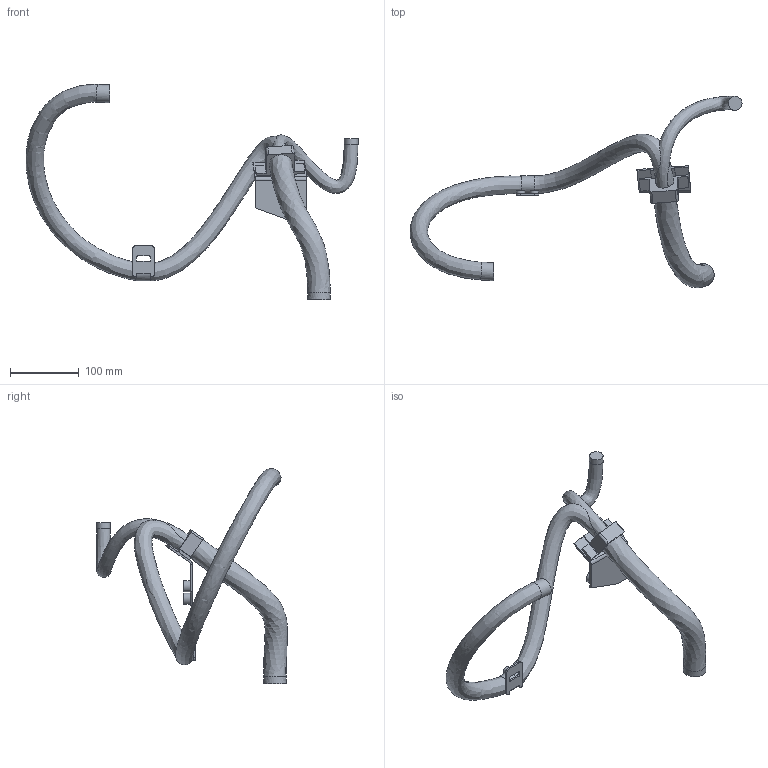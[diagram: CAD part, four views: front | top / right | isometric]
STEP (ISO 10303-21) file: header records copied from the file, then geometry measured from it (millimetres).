
FILE_DESCRIPTION (( 'STEP AP214' ), '1' );
FILE_NAME ('IRB7710_All_OC_00_LINK03m_CABLE.step', '2026-01-28T09:15:53', ( '' ), ( '' ), 'SwSTEP 2.0', 'SolidWorks 2024', '' );
FILE_SCHEMA (( 'AUTOMOTIVE_DESIGN' ));
Length unit declared in the file: millimetre
Products named in the file (1): IRB7710_All_OC_00_LINK03m_CABLE
Bounding box: 482.89 x 278.1 x 313.03 mm (x, y, z)
Volume: 768878.7 mm3; surface area: 128469.3 mm2
Topology: 1 solids, 1 shells, 82 faces, 213 edges, 140 vertices
Faces by surface type: plane 51, cylinder 25, bspline 6
Full cylindrical faces by diameter (mm): 12 x2, 16.27 x2, 20 x1, 26 x2
Entity records: 5287 total; most frequent: CARTESIAN_POINT 2474, DIRECTION 389, ORIENTED_EDGE 380, EDGE_CURVE 190, AXIS2_PLACEMENT_3D 131, VERTEX_POINT 130, LINE 127, VECTOR 127
